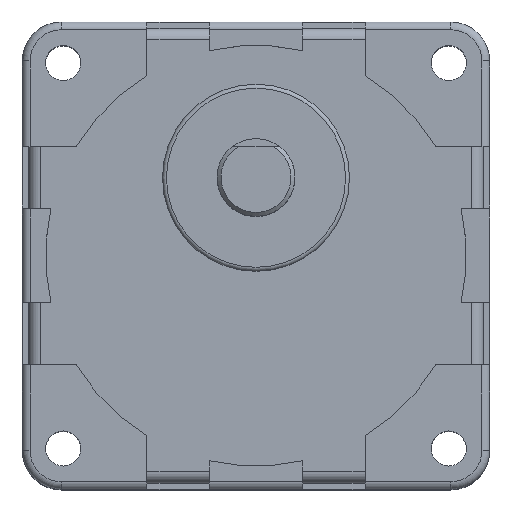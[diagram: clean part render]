
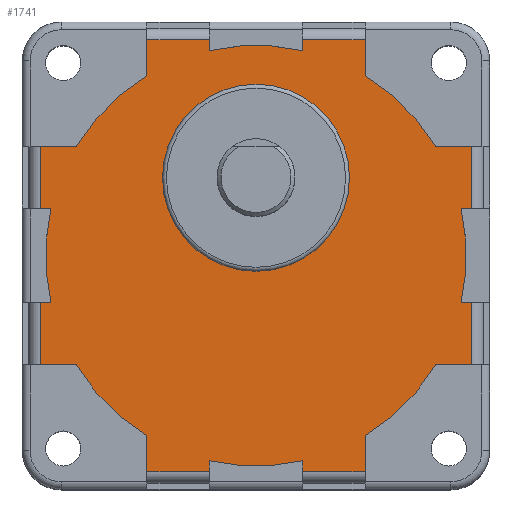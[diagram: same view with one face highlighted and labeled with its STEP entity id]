
A CAD part, top view. The second image highlights one B-rep face of the part: STEP entity #1741.
In plain terms, the highlighted planar face has unit normal (0, 0, 1).
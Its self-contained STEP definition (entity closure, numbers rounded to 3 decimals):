
#29=LINE('',#2638,#196);
#33=LINE('',#2650,#200);
#35=LINE('',#2656,#202);
#36=LINE('',#2660,#203);
#37=LINE('',#2662,#204);
#38=LINE('',#2664,#205);
#39=LINE('',#2668,#206);
#40=LINE('',#2670,#207);
#41=LINE('',#2672,#208);
#42=LINE('',#2676,#209);
#43=LINE('',#2678,#210);
#44=LINE('',#2680,#211);
#45=LINE('',#2684,#212);
#46=LINE('',#2686,#213);
#47=LINE('',#2688,#214);
#48=LINE('',#2692,#215);
#49=LINE('',#2694,#216);
#50=LINE('',#2696,#217);
#51=LINE('',#2700,#218);
#52=LINE('',#2702,#219);
#53=LINE('',#2704,#220);
#54=LINE('',#2707,#221);
#55=LINE('',#2709,#222);
#56=LINE('',#2712,#223);
#196=VECTOR('',#2099,8.);
#200=VECTOR('',#2109,8.);
#202=VECTOR('',#2115,4.613);
#203=VECTOR('',#2118,4.613);
#204=VECTOR('',#2119,8.);
#205=VECTOR('',#2120,1.375);
#206=VECTOR('',#2123,1.375);
#207=VECTOR('',#2124,8.);
#208=VECTOR('',#2125,4.613);
#209=VECTOR('',#2128,4.613);
#210=VECTOR('',#2129,8.);
#211=VECTOR('',#2130,1.375);
#212=VECTOR('',#2133,1.375);
#213=VECTOR('',#2134,8.);
#214=VECTOR('',#2135,4.613);
#215=VECTOR('',#2138,4.613);
#216=VECTOR('',#2139,8.);
#217=VECTOR('',#2140,1.375);
#218=VECTOR('',#2143,1.375);
#219=VECTOR('',#2144,8.);
#220=VECTOR('',#2145,4.613);
#221=VECTOR('',#2148,4.613);
#222=VECTOR('',#2149,1.375);
#223=VECTOR('',#2152,1.375);
#364=PLANE('',#1867);
#461=FACE_BOUND('',#602,.T.);
#488=FACE_OUTER_BOUND('',#601,.T.);
#601=EDGE_LOOP('',(#1269,#1270,#1271,#1272,#1273,#1274,#1275,#1276,#1277,
#1278,#1279,#1280,#1281,#1282,#1283,#1284,#1285,#1286,#1287,#1288,#1289,
#1290,#1291,#1292,#1293,#1294,#1295,#1296,#1297,#1298,#1299,#1300));
#602=EDGE_LOOP('',(#1301));
#711=CIRCLE('',#1858,12.);
#716=CIRCLE('',#1868,27.);
#717=CIRCLE('',#1869,27.);
#718=CIRCLE('',#1870,27.);
#719=CIRCLE('',#1871,27.);
#720=CIRCLE('',#1872,27.);
#721=CIRCLE('',#1873,27.);
#722=CIRCLE('',#1874,27.);
#723=CIRCLE('',#1875,27.);
#805=VERTEX_POINT('',#2627);
#806=VERTEX_POINT('',#2631);
#809=VERTEX_POINT('',#2636);
#813=VERTEX_POINT('',#2647);
#814=VERTEX_POINT('',#2649);
#816=VERTEX_POINT('',#2655);
#817=VERTEX_POINT('',#2657);
#818=VERTEX_POINT('',#2659);
#819=VERTEX_POINT('',#2661);
#820=VERTEX_POINT('',#2663);
#821=VERTEX_POINT('',#2665);
#822=VERTEX_POINT('',#2667);
#823=VERTEX_POINT('',#2669);
#824=VERTEX_POINT('',#2671);
#825=VERTEX_POINT('',#2673);
#826=VERTEX_POINT('',#2675);
#827=VERTEX_POINT('',#2677);
#828=VERTEX_POINT('',#2679);
#829=VERTEX_POINT('',#2681);
#830=VERTEX_POINT('',#2683);
#831=VERTEX_POINT('',#2685);
#832=VERTEX_POINT('',#2687);
#833=VERTEX_POINT('',#2689);
#834=VERTEX_POINT('',#2691);
#835=VERTEX_POINT('',#2693);
#836=VERTEX_POINT('',#2695);
#837=VERTEX_POINT('',#2697);
#838=VERTEX_POINT('',#2699);
#839=VERTEX_POINT('',#2701);
#840=VERTEX_POINT('',#2703);
#841=VERTEX_POINT('',#2705);
#842=VERTEX_POINT('',#2708);
#843=VERTEX_POINT('',#2710);
#982=EDGE_CURVE('',#805,#805,#711,.T.);
#986=EDGE_CURVE('',#809,#806,#29,.T.);
#991=EDGE_CURVE('',#813,#814,#33,.T.);
#994=EDGE_CURVE('',#809,#816,#35,.T.);
#995=EDGE_CURVE('',#817,#816,#716,.T.);
#996=EDGE_CURVE('',#818,#817,#36,.T.);
#997=EDGE_CURVE('',#819,#818,#37,.T.);
#998=EDGE_CURVE('',#820,#819,#38,.T.);
#999=EDGE_CURVE('',#821,#820,#717,.T.);
#1000=EDGE_CURVE('',#821,#822,#39,.T.);
#1001=EDGE_CURVE('',#823,#822,#40,.T.);
#1002=EDGE_CURVE('',#823,#824,#41,.T.);
#1003=EDGE_CURVE('',#825,#824,#718,.T.);
#1004=EDGE_CURVE('',#826,#825,#42,.T.);
#1005=EDGE_CURVE('',#827,#826,#43,.T.);
#1006=EDGE_CURVE('',#828,#827,#44,.T.);
#1007=EDGE_CURVE('',#829,#828,#719,.T.);
#1008=EDGE_CURVE('',#829,#830,#45,.T.);
#1009=EDGE_CURVE('',#831,#830,#46,.T.);
#1010=EDGE_CURVE('',#831,#832,#47,.T.);
#1011=EDGE_CURVE('',#833,#832,#720,.T.);
#1012=EDGE_CURVE('',#834,#833,#48,.T.);
#1013=EDGE_CURVE('',#835,#834,#49,.T.);
#1014=EDGE_CURVE('',#836,#835,#50,.T.);
#1015=EDGE_CURVE('',#837,#836,#721,.T.);
#1016=EDGE_CURVE('',#837,#838,#51,.T.);
#1017=EDGE_CURVE('',#839,#838,#52,.T.);
#1018=EDGE_CURVE('',#839,#840,#53,.T.);
#1019=EDGE_CURVE('',#841,#840,#722,.T.);
#1020=EDGE_CURVE('',#814,#841,#54,.T.);
#1021=EDGE_CURVE('',#842,#813,#55,.T.);
#1022=EDGE_CURVE('',#843,#842,#723,.T.);
#1023=EDGE_CURVE('',#843,#806,#56,.T.);
#1269=ORIENTED_EDGE('',*,*,#986,.F.);
#1270=ORIENTED_EDGE('',*,*,#994,.T.);
#1271=ORIENTED_EDGE('',*,*,#995,.F.);
#1272=ORIENTED_EDGE('',*,*,#996,.F.);
#1273=ORIENTED_EDGE('',*,*,#997,.F.);
#1274=ORIENTED_EDGE('',*,*,#998,.F.);
#1275=ORIENTED_EDGE('',*,*,#999,.F.);
#1276=ORIENTED_EDGE('',*,*,#1000,.T.);
#1277=ORIENTED_EDGE('',*,*,#1001,.F.);
#1278=ORIENTED_EDGE('',*,*,#1002,.T.);
#1279=ORIENTED_EDGE('',*,*,#1003,.F.);
#1280=ORIENTED_EDGE('',*,*,#1004,.F.);
#1281=ORIENTED_EDGE('',*,*,#1005,.F.);
#1282=ORIENTED_EDGE('',*,*,#1006,.F.);
#1283=ORIENTED_EDGE('',*,*,#1007,.F.);
#1284=ORIENTED_EDGE('',*,*,#1008,.T.);
#1285=ORIENTED_EDGE('',*,*,#1009,.F.);
#1286=ORIENTED_EDGE('',*,*,#1010,.T.);
#1287=ORIENTED_EDGE('',*,*,#1011,.F.);
#1288=ORIENTED_EDGE('',*,*,#1012,.F.);
#1289=ORIENTED_EDGE('',*,*,#1013,.F.);
#1290=ORIENTED_EDGE('',*,*,#1014,.F.);
#1291=ORIENTED_EDGE('',*,*,#1015,.F.);
#1292=ORIENTED_EDGE('',*,*,#1016,.T.);
#1293=ORIENTED_EDGE('',*,*,#1017,.F.);
#1294=ORIENTED_EDGE('',*,*,#1018,.T.);
#1295=ORIENTED_EDGE('',*,*,#1019,.F.);
#1296=ORIENTED_EDGE('',*,*,#1020,.F.);
#1297=ORIENTED_EDGE('',*,*,#991,.F.);
#1298=ORIENTED_EDGE('',*,*,#1021,.F.);
#1299=ORIENTED_EDGE('',*,*,#1022,.F.);
#1300=ORIENTED_EDGE('',*,*,#1023,.T.);
#1301=ORIENTED_EDGE('',*,*,#982,.F.);
#1741=ADVANCED_FACE('',(#488,#461),#364,.T.);
#1858=AXIS2_PLACEMENT_3D('',#2628,#2088,#2089);
#1867=AXIS2_PLACEMENT_3D('',#2654,#2113,#2114);
#1868=AXIS2_PLACEMENT_3D('',#2658,#2116,#2117);
#1869=AXIS2_PLACEMENT_3D('',#2666,#2121,#2122);
#1870=AXIS2_PLACEMENT_3D('',#2674,#2126,#2127);
#1871=AXIS2_PLACEMENT_3D('',#2682,#2131,#2132);
#1872=AXIS2_PLACEMENT_3D('',#2690,#2136,#2137);
#1873=AXIS2_PLACEMENT_3D('',#2698,#2141,#2142);
#1874=AXIS2_PLACEMENT_3D('',#2706,#2146,#2147);
#1875=AXIS2_PLACEMENT_3D('',#2711,#2150,#2151);
#2088=DIRECTION('center_axis',(0.,0.,1.));
#2089=DIRECTION('ref_axis',(-1.,0.,0.));
#2099=DIRECTION('',(0.,-1.,0.));
#2109=DIRECTION('',(0.,-1.,0.));
#2113=DIRECTION('center_axis',(0.,0.,1.));
#2114=DIRECTION('ref_axis',(1.,0.,0.));
#2115=DIRECTION('',(-1.,0.,0.));
#2116=DIRECTION('center_axis',(0.,0.,-1.));
#2117=DIRECTION('ref_axis',(-1.,0.,0.));
#2118=DIRECTION('',(0.,-1.,0.));
#2119=DIRECTION('',(1.,0.,0.));
#2120=DIRECTION('',(0.,1.,0.));
#2121=DIRECTION('center_axis',(0.,0.,-1.));
#2122=DIRECTION('ref_axis',(-1.,0.,0.));
#2123=DIRECTION('',(0.,1.,0.));
#2124=DIRECTION('',(1.,0.,0.));
#2125=DIRECTION('',(0.,-1.,0.));
#2126=DIRECTION('center_axis',(0.,0.,-1.));
#2127=DIRECTION('ref_axis',(-1.,0.,0.));
#2128=DIRECTION('',(1.,0.,0.));
#2129=DIRECTION('',(0.,1.,0.));
#2130=DIRECTION('',(-1.,0.,0.));
#2131=DIRECTION('center_axis',(0.,0.,-1.));
#2132=DIRECTION('ref_axis',(-1.,0.,0.));
#2133=DIRECTION('',(-1.,0.,0.));
#2134=DIRECTION('',(0.,1.,0.));
#2135=DIRECTION('',(1.,0.,0.));
#2136=DIRECTION('center_axis',(0.,0.,-1.));
#2137=DIRECTION('ref_axis',(-1.,0.,0.));
#2138=DIRECTION('',(0.,1.,0.));
#2139=DIRECTION('',(-1.,0.,0.));
#2140=DIRECTION('',(0.,-1.,0.));
#2141=DIRECTION('center_axis',(0.,0.,-1.));
#2142=DIRECTION('ref_axis',(-1.,0.,0.));
#2143=DIRECTION('',(0.,-1.,0.));
#2144=DIRECTION('',(-1.,0.,0.));
#2145=DIRECTION('',(0.,1.,0.));
#2146=DIRECTION('center_axis',(0.,0.,-1.));
#2147=DIRECTION('ref_axis',(-1.,0.,0.));
#2148=DIRECTION('',(-1.,0.,0.));
#2149=DIRECTION('',(1.,0.,0.));
#2150=DIRECTION('center_axis',(0.,0.,-1.));
#2151=DIRECTION('ref_axis',(-1.,0.,0.));
#2152=DIRECTION('',(1.,0.,0.));
#2627=CARTESIAN_POINT('',(12.,10.,42.2));
#2628=CARTESIAN_POINT('Origin',(0.,10.,42.2));
#2631=CARTESIAN_POINT('',(27.7,6.,42.2));
#2636=CARTESIAN_POINT('',(27.7,14.,42.2));
#2638=CARTESIAN_POINT('',(27.7,7.,42.2));
#2647=CARTESIAN_POINT('',(27.7,-6.,42.2));
#2649=CARTESIAN_POINT('',(27.7,-14.,42.2));
#2650=CARTESIAN_POINT('',(27.7,-7.,42.2));
#2654=CARTESIAN_POINT('Origin',(0.,0.,42.2));
#2655=CARTESIAN_POINT('',(23.087,14.,42.2));
#2656=CARTESIAN_POINT('',(23.087,14.,42.2));
#2657=CARTESIAN_POINT('',(14.,23.087,42.2));
#2658=CARTESIAN_POINT('Origin',(0.,0.,42.2));
#2659=CARTESIAN_POINT('',(14.,27.7,42.2));
#2660=CARTESIAN_POINT('',(14.,23.087,42.2));
#2661=CARTESIAN_POINT('',(6.,27.7,42.2));
#2662=CARTESIAN_POINT('',(7.,27.7,42.2));
#2663=CARTESIAN_POINT('',(6.,26.325,42.2));
#2664=CARTESIAN_POINT('',(6.,30.,42.2));
#2665=CARTESIAN_POINT('',(-6.,26.325,42.2));
#2666=CARTESIAN_POINT('Origin',(0.,0.,42.2));
#2667=CARTESIAN_POINT('',(-6.,27.7,42.2));
#2668=CARTESIAN_POINT('',(-6.,30.,42.2));
#2669=CARTESIAN_POINT('',(-14.,27.7,42.2));
#2670=CARTESIAN_POINT('',(-7.,27.7,42.2));
#2671=CARTESIAN_POINT('',(-14.,23.087,42.2));
#2672=CARTESIAN_POINT('',(-14.,23.087,42.2));
#2673=CARTESIAN_POINT('',(-23.087,14.,42.2));
#2674=CARTESIAN_POINT('Origin',(0.,0.,42.2));
#2675=CARTESIAN_POINT('',(-27.7,14.,42.2));
#2676=CARTESIAN_POINT('',(-23.087,14.,42.2));
#2677=CARTESIAN_POINT('',(-27.7,6.,42.2));
#2678=CARTESIAN_POINT('',(-27.7,7.,42.2));
#2679=CARTESIAN_POINT('',(-26.325,6.,42.2));
#2680=CARTESIAN_POINT('',(-30.,6.,42.2));
#2681=CARTESIAN_POINT('',(-26.325,-6.,42.2));
#2682=CARTESIAN_POINT('Origin',(0.,0.,42.2));
#2683=CARTESIAN_POINT('',(-27.7,-6.,42.2));
#2684=CARTESIAN_POINT('',(-30.,-6.,42.2));
#2685=CARTESIAN_POINT('',(-27.7,-14.,42.2));
#2686=CARTESIAN_POINT('',(-27.7,-7.,42.2));
#2687=CARTESIAN_POINT('',(-23.087,-14.,42.2));
#2688=CARTESIAN_POINT('',(-23.087,-14.,42.2));
#2689=CARTESIAN_POINT('',(-14.,-23.087,42.2));
#2690=CARTESIAN_POINT('Origin',(0.,0.,42.2));
#2691=CARTESIAN_POINT('',(-14.,-27.7,42.2));
#2692=CARTESIAN_POINT('',(-14.,-23.087,42.2));
#2693=CARTESIAN_POINT('',(-6.,-27.7,42.2));
#2694=CARTESIAN_POINT('',(-7.,-27.7,42.2));
#2695=CARTESIAN_POINT('',(-6.,-26.325,42.2));
#2696=CARTESIAN_POINT('',(-6.,-30.,42.2));
#2697=CARTESIAN_POINT('',(6.,-26.325,42.2));
#2698=CARTESIAN_POINT('Origin',(0.,0.,42.2));
#2699=CARTESIAN_POINT('',(6.,-27.7,42.2));
#2700=CARTESIAN_POINT('',(6.,-30.,42.2));
#2701=CARTESIAN_POINT('',(14.,-27.7,42.2));
#2702=CARTESIAN_POINT('',(7.,-27.7,42.2));
#2703=CARTESIAN_POINT('',(14.,-23.087,42.2));
#2704=CARTESIAN_POINT('',(14.,-23.087,42.2));
#2705=CARTESIAN_POINT('',(23.087,-14.,42.2));
#2706=CARTESIAN_POINT('Origin',(0.,0.,42.2));
#2707=CARTESIAN_POINT('',(23.087,-14.,42.2));
#2708=CARTESIAN_POINT('',(26.325,-6.,42.2));
#2709=CARTESIAN_POINT('',(30.,-6.,42.2));
#2710=CARTESIAN_POINT('',(26.325,6.,42.2));
#2711=CARTESIAN_POINT('Origin',(0.,0.,42.2));
#2712=CARTESIAN_POINT('',(30.,6.,42.2));
